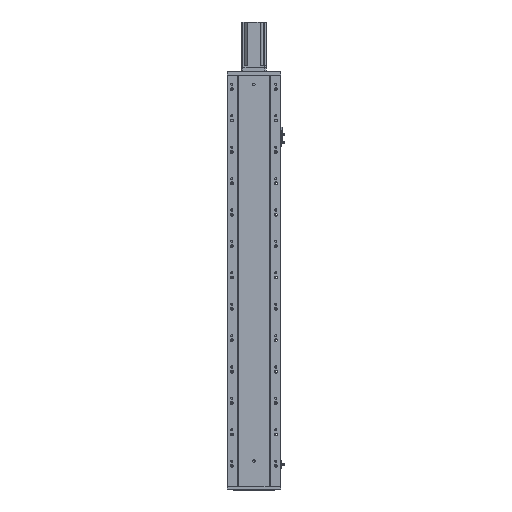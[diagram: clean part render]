
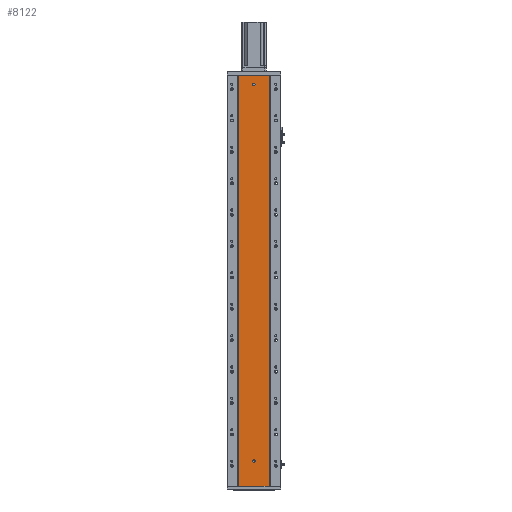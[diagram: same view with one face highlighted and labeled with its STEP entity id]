
A CAD part, front view. The second image highlights one B-rep face of the part: STEP entity #8122.
In plain terms, the highlighted planar face has unit normal (0, -1, 0).
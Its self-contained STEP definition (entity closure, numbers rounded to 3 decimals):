
#311 = DIRECTION ( 'NONE',  ( 0., 0., -1. ) ) ;
#1182 = CARTESIAN_POINT ( 'NONE',  ( 185.97, 79.476, 436.667 ) ) ;
#1690 = CARTESIAN_POINT ( 'NONE',  ( 185.97, 79.476, 873.333 ) ) ;
#1945 = CARTESIAN_POINT ( 'NONE',  ( 185.97, 79.476, 0. ) ) ;
#2107 = ORIENTED_EDGE ( 'NONE', *, *, #56816, .T. ) ;
#3479 = VECTOR ( 'NONE', #26081, 1000. ) ;
#5125 = ORIENTED_EDGE ( 'NONE', *, *, #9582, .T. ) ;
#6405 = CARTESIAN_POINT ( 'NONE',  ( 136.47, 79.476, 76. ) ) ;
#6425 = AXIS2_PLACEMENT_3D ( 'NONE', #76195, #28040, #16303 ) ;
#6917 = VERTEX_POINT ( 'NONE', #53198 ) ;
#8038 = DIRECTION ( 'NONE',  ( 0., -1., 0. ) ) ;
#8122 = ADVANCED_FACE ( 'NONE', ( #68848, #52005, #51035 ), #29946, .F. ) ;
#8177 = CARTESIAN_POINT ( 'NONE',  ( 185.97, 79.476, 1310. ) ) ;
#9212 = VERTEX_POINT ( 'NONE', #23763 ) ;
#9535 = B_SPLINE_CURVE_WITH_KNOTS ( 'NONE', 3,
 ( #8177, #1690, #1182, #1945 ),
 .UNSPECIFIED., .F., .F.,
 ( 4, 4 ),
 ( 0., 1. ),
 .UNSPECIFIED. ) ;
#9582 = EDGE_CURVE ( 'NONE', #76630, #6917, #34075, .T. ) ;
#9860 = CARTESIAN_POINT ( 'NONE',  ( 0., 79.476, 0. ) ) ;
#15459 = CARTESIAN_POINT ( 'NONE',  ( 136.47, 79.476, 1284. ) ) ;
#15608 = EDGE_CURVE ( 'NONE', #18367, #43387, #76943, .T. ) ;
#16303 = DIRECTION ( 'NONE',  ( 0., 0., -1. ) ) ;
#16396 = AXIS2_PLACEMENT_3D ( 'NONE', #65967, #42441, #18427 ) ;
#18367 = VERTEX_POINT ( 'NONE', #6405 ) ;
#18427 = DIRECTION ( 'NONE',  ( 0., 0., 1. ) ) ;
#19339 = LINE ( 'NONE', #49319, #3479 ) ;
#20077 = CARTESIAN_POINT ( 'NONE',  ( 136.47, 79.476, 84. ) ) ;
#20182 = CARTESIAN_POINT ( 'NONE',  ( 86.97, 79.476, 873.333 ) ) ;
#22310 = CARTESIAN_POINT ( 'NONE',  ( 136.47, 79.476, 1280. ) ) ;
#23763 = CARTESIAN_POINT ( 'NONE',  ( 136.47, 79.476, 1276. ) ) ;
#24107 = ORIENTED_EDGE ( 'NONE', *, *, #27178, .F. ) ;
#26081 = DIRECTION ( 'NONE',  ( 1., 0., 0. ) ) ;
#27178 = EDGE_CURVE ( 'NONE', #61033, #44168, #19339, .T. ) ;
#28040 = DIRECTION ( 'NONE',  ( 0., -1., 0. ) ) ;
#28287 = CIRCLE ( 'NONE', #69251, 4. ) ;
#28334 = DIRECTION ( 'NONE',  ( 0., -1., 0. ) ) ;
#29237 = ORIENTED_EDGE ( 'NONE', *, *, #15608, .F. ) ;
#29946 = PLANE ( 'NONE',  #16396 ) ;
#31830 = DIRECTION ( 'NONE',  ( 0., 0., -1. ) ) ;
#32008 = ORIENTED_EDGE ( 'NONE', *, *, #76099, .F. ) ;
#32599 = ORIENTED_EDGE ( 'NONE', *, *, #56461, .F. ) ;
#32777 = EDGE_LOOP ( 'NONE', ( #32599, #63705 ) ) ;
#32898 = VERTEX_POINT ( 'NONE', #15459 ) ;
#34075 = LINE ( 'NONE', #9860, #57344 ) ;
#35650 = DIRECTION ( 'NONE',  ( 0., 0., -1. ) ) ;
#36334 = B_SPLINE_CURVE_WITH_KNOTS ( 'NONE', 3,
 ( #68528, #20182, #63004, #38725 ),
 .UNSPECIFIED., .F., .F.,
 ( 4, 4 ),
 ( 0., 1. ),
 .UNSPECIFIED. ) ;
#36620 = CARTESIAN_POINT ( 'NONE',  ( 136.47, 79.476, 1280. ) ) ;
#38725 = CARTESIAN_POINT ( 'NONE',  ( 86.97, 79.476, 0. ) ) ;
#42441 = DIRECTION ( 'NONE',  ( 0., 1., 0. ) ) ;
#43387 = VERTEX_POINT ( 'NONE', #20077 ) ;
#44168 = VERTEX_POINT ( 'NONE', #45533 ) ;
#45533 = CARTESIAN_POINT ( 'NONE',  ( 185.97, 79.476, 1310. ) ) ;
#49089 = DIRECTION ( 'NONE',  ( 0., -1., 0. ) ) ;
#49319 = CARTESIAN_POINT ( 'NONE',  ( 0., 79.476, 1310. ) ) ;
#51035 = FACE_OUTER_BOUND ( 'NONE', #56110, .T. ) ;
#51725 = CIRCLE ( 'NONE', #6425, 4. ) ;
#52005 = FACE_BOUND ( 'NONE', #68016, .T. ) ;
#53198 = CARTESIAN_POINT ( 'NONE',  ( 185.97, 79.476, 0. ) ) ;
#53334 = CARTESIAN_POINT ( 'NONE',  ( 86.97, 79.476, 0. ) ) ;
#55429 = ORIENTED_EDGE ( 'NONE', *, *, #62297, .F. ) ;
#56110 = EDGE_LOOP ( 'NONE', ( #5125, #55429, #24107, #2107 ) ) ;
#56461 = EDGE_CURVE ( 'NONE', #9212, #32898, #67108, .T. ) ;
#56816 = EDGE_CURVE ( 'NONE', #61033, #76630, #36334, .T. ) ;
#56882 = AXIS2_PLACEMENT_3D ( 'NONE', #67878, #8038, #31830 ) ;
#57344 = VECTOR ( 'NONE', #75727, 1000. ) ;
#60489 = AXIS2_PLACEMENT_3D ( 'NONE', #22310, #28334, #35650 ) ;
#60556 = EDGE_CURVE ( 'NONE', #32898, #9212, #28287, .T. ) ;
#61033 = VERTEX_POINT ( 'NONE', #70533 ) ;
#62297 = EDGE_CURVE ( 'NONE', #44168, #6917, #9535, .T. ) ;
#63004 = CARTESIAN_POINT ( 'NONE',  ( 86.97, 79.476, 436.667 ) ) ;
#63705 = ORIENTED_EDGE ( 'NONE', *, *, #60556, .F. ) ;
#65967 = CARTESIAN_POINT ( 'NONE',  ( 0., 79.476, 1310. ) ) ;
#67108 = CIRCLE ( 'NONE', #60489, 4. ) ;
#67878 = CARTESIAN_POINT ( 'NONE',  ( 136.47, 79.476, 80. ) ) ;
#68016 = EDGE_LOOP ( 'NONE', ( #29237, #32008 ) ) ;
#68528 = CARTESIAN_POINT ( 'NONE',  ( 86.97, 79.476, 1310. ) ) ;
#68848 = FACE_BOUND ( 'NONE', #32777, .T. ) ;
#69251 = AXIS2_PLACEMENT_3D ( 'NONE', #36620, #49089, #311 ) ;
#70533 = CARTESIAN_POINT ( 'NONE',  ( 86.97, 79.476, 1310. ) ) ;
#75727 = DIRECTION ( 'NONE',  ( 1., 0., 0. ) ) ;
#76099 = EDGE_CURVE ( 'NONE', #43387, #18367, #51725, .T. ) ;
#76195 = CARTESIAN_POINT ( 'NONE',  ( 136.47, 79.476, 80. ) ) ;
#76630 = VERTEX_POINT ( 'NONE', #53334 ) ;
#76943 = CIRCLE ( 'NONE', #56882, 4. ) ;
